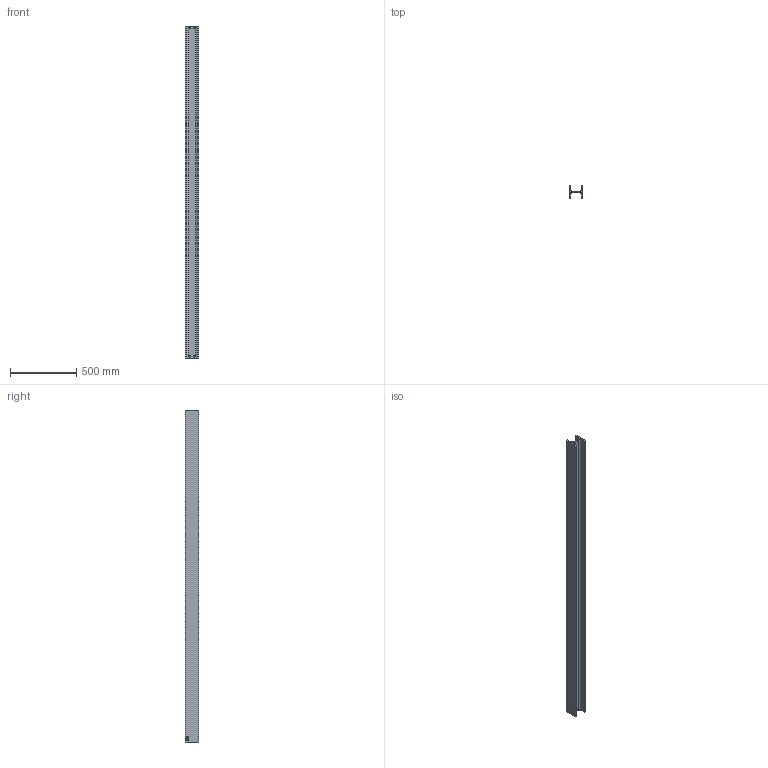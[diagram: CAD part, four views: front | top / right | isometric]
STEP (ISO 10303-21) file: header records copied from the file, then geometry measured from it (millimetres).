
FILE_DESCRIPTION (( 'STEP AP214' ), '1' );
FILE_NAME ('CCJ029-REP.055 - POTEAU PLATEFORME SUP.STEP', '2025-02-13T09:34:23', ( '' ), ( '' ), 'SwSTEP 2.0', 'SolidWorks 2021', '' );
FILE_SCHEMA (( 'AUTOMOTIVE_DESIGN' ));
Length unit declared in the file: millimetre
Products named in the file (1): CCJ029-REP.055 - POTEAU PLATEFORME SUP
Bounding box: 100 x 100 x 2510 mm (x, y, z)
Volume: 6530747.6 mm3; surface area: 1429201.6 mm2
Topology: 1 solids, 1 shells, 67 faces, 183 edges, 122 vertices
Faces by surface type: plane 30, bspline 25, cylinder 12
Entity records: 3801 total; most frequent: CARTESIAN_POINT 2198, ORIENTED_EDGE 366, DIRECTION 243, EDGE_CURVE 183, VERTEX_POINT 122, LINE 109, VECTOR 109, EDGE_LOOP 79
